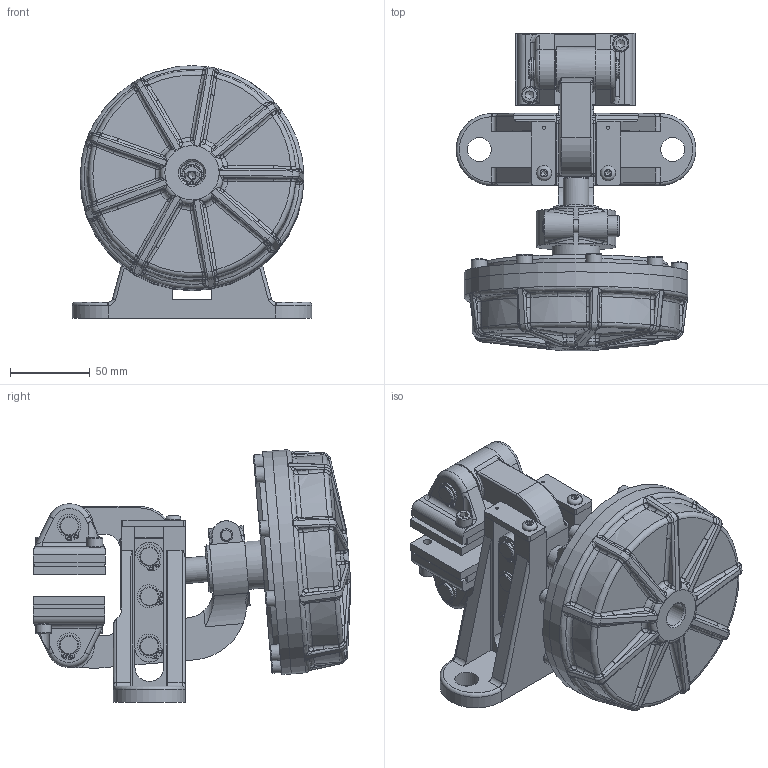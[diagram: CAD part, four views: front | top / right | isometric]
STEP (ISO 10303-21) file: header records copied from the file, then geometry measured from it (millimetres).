
FILE_DESCRIPTION(/* description */ ('','CAx-IF Rec.Pracs.---Representation and Presentation of Product Manufacturing Information (PMI)---4.0---2014-10-13'),/* implementation_level */ '2;1');
FILE_NAME(/* name */ 'X:\INVENTOR\DISEGNI\19_Pinze\STEP x Sito\PNEUM-POSITIVE\19_16_013_03 PPD013_12,7.stp',/* time_stamp */ '2018-02-14T07:41:10+01:00',/* author */ ('stefano'),/* organization */ (''),/* preprocessor_version */ 'ST-DEVELOPER v17',/* originating_system */ 'Autodesk Inventor 2018',/* authorisation */ '');
FILE_SCHEMA (('AP242_MANAGED_MODEL_BASED_3D_ENGINEERING_MIM_LF { 1 0 10303 442 1 1 4 }'));
Products named in the file (1): 19_16_013_03 PPD013_12,7_Substitute_2
Bounding box: 150 x 198.87 x 157.96 mm (x, y, z)
Volume: 1222297.1 mm3; surface area: 179028.6 mm2
Topology: 5 solids, 5 shells, 1272 faces, 3497 edges, 2256 vertices
Faces by surface type: plane 511, cylinder 353, bspline 232, torus 97, cone 78, sphere 1
Full cylindrical faces by diameter (mm): 1.7 x20, 2 x2, 4.917 x8, 5 x1, 8 x2, 8.5 x1, 9.5 x4, 10 x17, 11.5 x10, 12 x23, 13 x2, 13.5 x1, 14.95 x1, 15 x2, 16 x1, 19 x1, 22.6 x1, 30 x1, 35 x1, 85 x1, 118 x1, 140 x2
Entity records: 53200 total; most frequent: CARTESIAN_POINT 20974, ORIENTED_EDGE 6928, DIRECTION 5995, EDGE_CURVE 3464, AXIS2_PLACEMENT_3D 2342, VERTEX_POINT 2256, EDGE_LOOP 1384, LINE 1311
